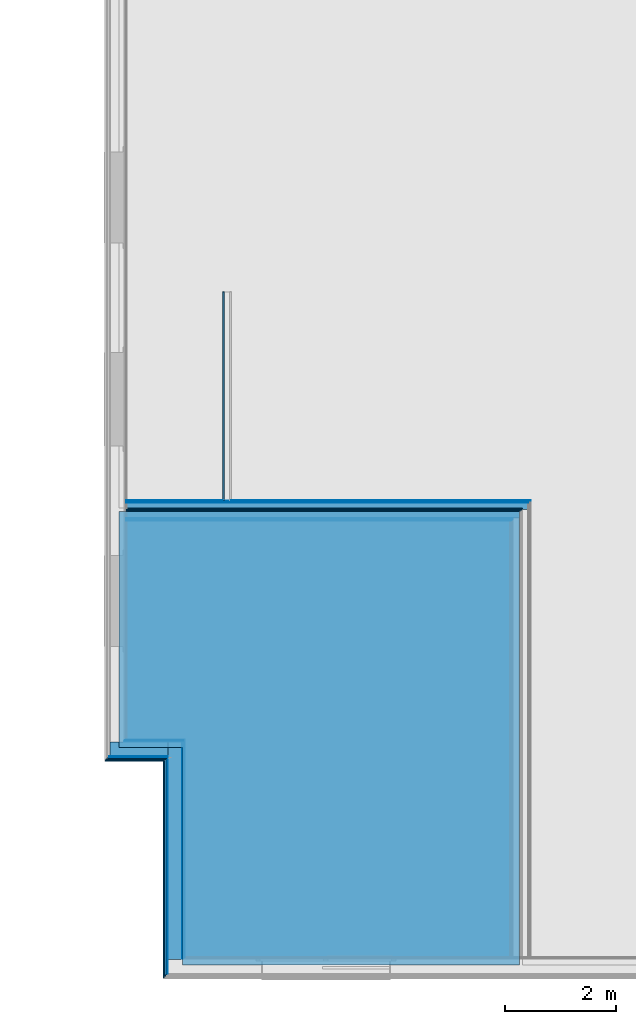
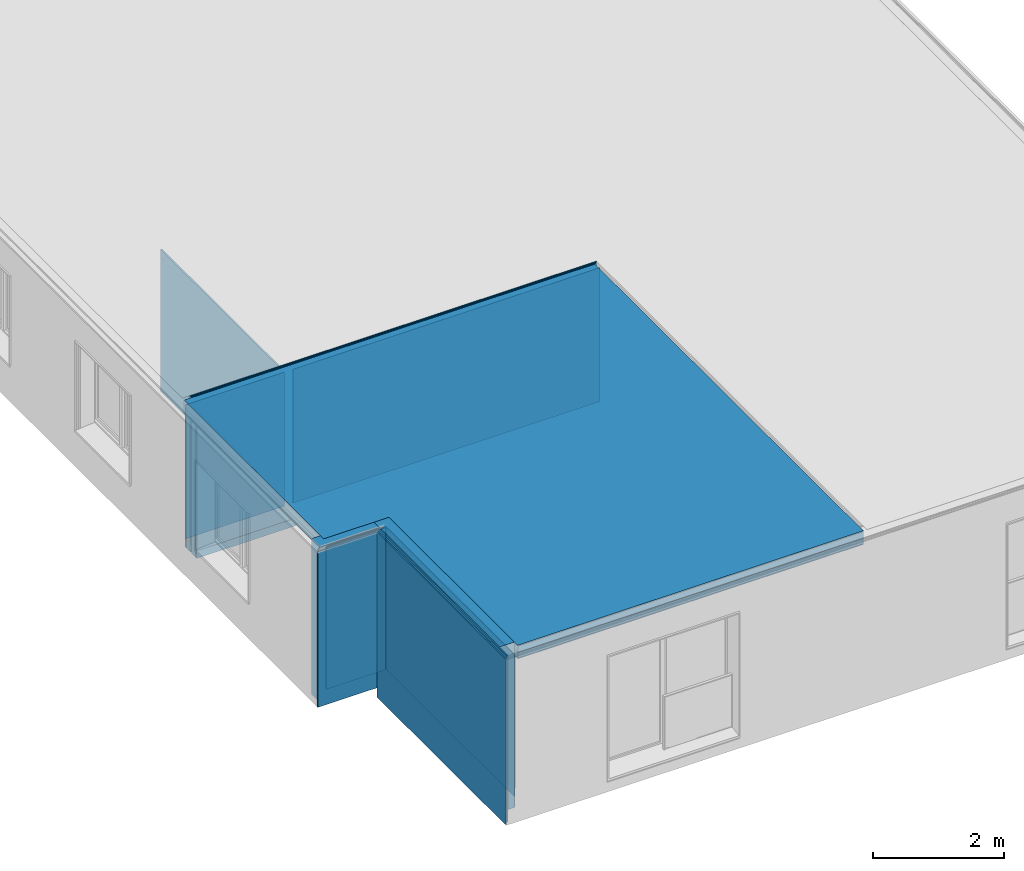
# One storey, part 4 of 34: 31 building element parts, 8 elements without a shape of their own.
"""IFC4 building model written with IfcOpenShell, lengths in millimetres."""

from ifc_helpers import new_model, entity, si_unit, converted_unit, derived_unit, direction, frame, origin_with_axes, place, context, subcontext, project, spatial, polygons, material, type_object, element, aggregate, save


model = new_model("IFC4")

# Units and contexts
model_context = context("Model", 3, precision=0.01, world=origin_with_axes(), true_north=direction((0.0, 1.0)))
body_context = subcontext(model_context, "Body", "Model", "MODEL_VIEW")
ifc_project = project(units=[si_unit("LENGTHUNIT", "METRE", prefix="MILLI"), si_unit("AREAUNIT", "SQUARE_METRE"), si_unit("VOLUMEUNIT", "CUBIC_METRE"), converted_unit("PLANEANGLEUNIT", "DEGREE", entity("IfcPlaneAngleMeasure", 0.0174532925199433), si_unit("PLANEANGLEUNIT", "RADIAN"), dimensions=[0, 0, 0, 0, 0, 0, 0]), converted_unit("TIMEUNIT", "Year", entity("IfcTimeMeasure", 31557600.0), si_unit("TIMEUNIT", "SECOND"), dimensions=[0, 0, 1, 0, 0, 0, 0]), si_unit("MASSUNIT", "GRAM", prefix="KILO"), si_unit("THERMODYNAMICTEMPERATUREUNIT", "DEGREE_CELSIUS"), si_unit("LUMINOUSINTENSITYUNIT", "LUMEN"), si_unit("ENERGYUNIT", "JOULE", prefix="MEGA"), derived_unit("THERMALCONDUCTANCEUNIT", [(si_unit("POWERUNIT", "WATT"), 1), (si_unit("LENGTHUNIT", "METRE"), -1), (si_unit("THERMODYNAMICTEMPERATUREUNIT", "KELVIN"), -1)]), derived_unit("SPECIFICHEATCAPACITYUNIT", [(si_unit("ENERGYUNIT", "JOULE"), 1), (si_unit("MASSUNIT", "GRAM", prefix="KILO"), -1), (si_unit("THERMODYNAMICTEMPERATUREUNIT", "KELVIN"), -1)]), derived_unit("MASSDENSITYUNIT", [(si_unit("MASSUNIT", "GRAM", prefix="KILO"), 1), (si_unit("VOLUMEUNIT", "CUBIC_METRE"), -1)])], contexts=[model_context])

# Site, building, storey
site_placement = place(None, origin_with_axes())
site = spatial("IfcSite", under=ifc_project, at=site_placement, Name="Gelände", CompositionType="ELEMENT")
building_placement = place(site_placement, origin_with_axes())
building = spatial("IfcBuilding", under=site, at=building_placement, Name="Gebäude", CompositionType="ELEMENT")
storey_placement = place(building_placement, frame((0.0, 0.0, 2900.0), z_axis=(0.0, 0.0, 1.0), x_axis=(1.0, 0.0, 0.0)))
storey = spatial("IfcBuildingStorey", under=building, at=storey_placement, Name="1.OG", CompositionType="ELEMENT", Elevation=2900.0)

# Curtain wall, building element parts
curtain_wall_type = type_object("IfcCurtainWallType", Name="Fassade Typ 02 - Vertikale Schalung 71", PredefinedType="NOTDEFINED")
curtain_wall_1_placement = place(storey_placement, frame((18974.99747005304, 8447.597281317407, 500.0000000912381), z_axis=(0.0, 0.0, 1.0), x_axis=(-1.0, 0.0, 0.0)))
curtain_wall_1 = element("IfcCurtainWall", 1, at=curtain_wall_1_placement, inside=storey, type_object=curtain_wall_type, Name="Wand-014", PredefinedType="NOTDEFINED")
ifc_material_1 = material(Name="Falzschalung vertikal")
building_element_part_1_placement = place(curtain_wall_1_placement, origin_with_axes())
building_element_part_1 = element("IfcBuildingElementPart", 2, at=building_element_part_1_placement, material=ifc_material_1, Name="Falzschalung vertikal", PredefinedType="NOTDEFINED", context=body_context, shape_type="Tessellation", body=[
    polygons([(1046.00002528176, 0.0, 2899.99999990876), (-21.0000000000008, 0.0, 2899.99999990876), (-21.0000000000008, -20.99999999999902, 2899.99999990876), (1046.00002528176, -20.99999999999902, 2899.99999990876), (1046.00002528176, 0.0, 0.0), (-21.0000000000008, 0.0, 0.0), (-21.0000000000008, -21.0000000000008, 0.0), (1046.00002528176, -21.0000000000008, 0.0)], [[[1, 2, 3, 4]], [[5, 6, 2, 1]], [[3, 2, 6, 7]], [[4, 3, 7, 8]], [[4, 8, 5, 1]], [[8, 7, 6, 5]]], closed=True),
])
ifc_material_2 = material(Name="Lattenrost horizontal")
building_element_part_2_placement = place(curtain_wall_1_placement, origin_with_axes())
building_element_part_2 = element("IfcBuildingElementPart", 3, at=building_element_part_2_placement, material=ifc_material_2, Name="Lattenrost horizontal", PredefinedType="NOTDEFINED", context=body_context, shape_type="Tessellation", body=[
    polygons([(1025.000025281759, -20.99999999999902, 2899.99999990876), (-45.99999999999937, -20.99999999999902, 2899.99999990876), (-45.99999999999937, -45.99999999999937, 2899.99999990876), (1025.000025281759, -45.99999999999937, 2899.99999990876), (1025.000025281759, -21.0000000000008, 0.0), (-45.99999999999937, -21.0000000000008, 0.0), (-45.99999999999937, -45.99999999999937, 0.0), (1025.000025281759, -45.99999999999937, 0.0)], [[[1, 2, 3, 4]], [[5, 6, 2, 1]], [[3, 2, 6, 7]], [[4, 3, 7, 8]], [[4, 8, 5, 1]], [[8, 7, 6, 5]]], closed=True),
])

# Wall, building element part
wall_type_1 = type_object("IfcWallType", Name="Innenwand Typ 01 154", PredefinedType="NOTDEFINED")
wall_1_placement = place(storey_placement, frame((20053.50474128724, 13160.59728131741, 500.0), z_axis=(0.0, 0.0, 1.0), x_axis=(0.0, 1.0, 0.0)))
wall_1 = element("IfcWall", 4, at=wall_1_placement, inside=storey, type_object=wall_type_1, Name="Wand-014", PredefinedType="NOTDEFINED")
ifc_material_3 = material(Name="Dreischichtplatte DSP")
building_element_part_3_placement = place(wall_1_placement, origin_with_axes())
building_element_part_3 = element("IfcBuildingElementPart", 5, at=building_element_part_3_placement, material=ifc_material_3, Name="Dreischichtplatte DSP", PredefinedType="NOTDEFINED", context=body_context, shape_type="Tessellation", body=[
    polygons([(3761.05371447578, -27.00000000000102, 2643.999999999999), (3761.05371447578, 0.0, 2643.999999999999), (-9.999999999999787, 0.0, 2643.999999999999), (-9.999999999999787, -27.00000000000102, 2643.999999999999), (3761.05371447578, -27.00000000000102, 0.0), (3761.05371447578, 0.0, 0.0), (-9.999999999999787, 0.0, 0.0), (-9.999999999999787, -27.00000000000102, 0.0)], [[[1, 2, 3, 4]], [[1, 5, 6, 2]], [[2, 6, 7, 3]], [[4, 3, 7, 8]], [[5, 1, 4, 8]], [[6, 5, 8, 7]]], closed=True),
])
aggregate(wall_1, [building_element_part_3])

# Building element part
ifc_material_4 = material(Name="Lattenrost vertikal")
building_element_part_4_placement = place(curtain_wall_1_placement, origin_with_axes())
building_element_part_4 = element("IfcBuildingElementPart", 6, at=building_element_part_4_placement, material=ifc_material_4, Name="Lattenrost vertikal", PredefinedType="NOTDEFINED", context=body_context, shape_type="Tessellation", body=[
    polygons([(1000.000025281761, -45.99999999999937, 2899.99999990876), (-71.0000000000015, -45.99999999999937, 2899.99999990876), (-71.0000000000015, -70.99999999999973, 2899.99999990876), (1000.000025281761, -70.99999999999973, 2899.99999990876), (1000.000025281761, -45.99999999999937, 0.0), (-71.0000000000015, -45.99999999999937, 0.0), (-71.0000000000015, -70.99999999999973, 0.0), (1000.000025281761, -70.99999999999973, 0.0)], [[[1, 2, 3, 4]], [[5, 6, 2, 1]], [[3, 2, 6, 7]], [[4, 3, 7, 8]], [[4, 8, 5, 1]], [[8, 7, 6, 5]]], closed=True),
])

aggregate(curtain_wall_1, [building_element_part_1, building_element_part_2, building_element_part_4])

# Wall, building element parts
wall_type_2 = type_object("IfcWallType", Name="Trennwand Typ 01 186", PredefinedType="NOTDEFINED")
wall_2_placement = place(storey_placement, frame((18307.99744477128, 12788.59728131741, 500.0), z_axis=(0.0, 0.0, 1.0), x_axis=(1.0, 0.0, 0.0)))
wall_2 = element("IfcWall", 7, at=wall_2_placement, inside=storey, type_object=wall_type_2, Name="Wand-014", PredefinedType="NOTDEFINED")
ifc_material_5 = material(Name="Dämmung Innen")
building_element_part_5_placement = place(wall_2_placement, origin_with_axes())
building_element_part_5 = element("IfcBuildingElementPart", 8, at=building_element_part_5_placement, material=ifc_material_5, Name="Dämmung Innen", PredefinedType="NOTDEFINED", context=body_context, shape_type="Tessellation", body=[
    polygons([(7120.999999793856, 166.0000000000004, 149.9999999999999), (7120.999999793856, 185.9999999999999, 149.9999999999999), (7120.999999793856, 185.9999999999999, 2899.999999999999), (7120.999999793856, 166.0000000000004, 2899.999999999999), (0.0, 185.9999999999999, 149.9999999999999), (0.0, 166.0000000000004, 149.9999999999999), (0.0, 185.9999999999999, 2899.999999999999), (0.0, 166.0000000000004, 2899.999999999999)], [[[1, 2, 3, 4]], [[5, 2, 1, 6]], [[2, 5, 7, 3]], [[4, 3, 7, 8]], [[6, 1, 4, 8]], [[5, 6, 8, 7]]], closed=True),
])
ifc_material_6 = material(Name="Ständer Konstruktion gedämmt")
building_element_part_6_placement = place(wall_2_placement, origin_with_axes())
building_element_part_6 = element("IfcBuildingElementPart", 9, at=building_element_part_6_placement, material=ifc_material_6, Name="Ständer Konstruktion gedämmt", PredefinedType="NOTDEFINED", context=body_context, shape_type="Tessellation", body=[
    polygons([(0.0, 166.0000000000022, 2643.999948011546), (7100.999999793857, 166.0000000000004, 2643.999948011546), (7100.999999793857, 166.0000000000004, 0.0), (0.0, 166.0000000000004, 0.0), (7100.999999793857, 46.00000000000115, 2643.999948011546), (0.0, 45.99999999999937, 2643.999948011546), (7100.999999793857, 46.00000000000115, 0.0), (0.0, 45.99999999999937, 0.0)], [[[1, 2, 3, 4]], [[5, 2, 1, 6]], [[2, 5, 7, 3]], [[3, 7, 8, 4]], [[6, 1, 4, 8]], [[5, 6, 8, 7]]], closed=True),
])
ifc_material_7 = material(Name="Gipsfaserplatte GFP")
building_element_part_7_placement = place(wall_2_placement, origin_with_axes())
building_element_part_7 = element("IfcBuildingElementPart", 10, at=building_element_part_7_placement, material=ifc_material_7, Name="Gipsfaserplatte GFP", PredefinedType="NOTDEFINED", context=body_context, shape_type="Tessellation", body=[
    polygons([(0.0, 45.99999999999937, 2643.999948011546), (6980.999999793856, 46.00000000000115, 2643.999948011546), (6980.999999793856, 46.00000000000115, 0.0), (0.0, 45.99999999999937, 0.0), (6980.999999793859, 28.00000000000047, 2643.999948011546), (0.0, 28.00000000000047, 2643.999948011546), (6980.999999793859, 28.00000000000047, 0.0), (0.0, 28.00000000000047, 0.0)], [[[1, 2, 3, 4]], [[5, 2, 1, 6]], [[2, 5, 7, 3]], [[3, 7, 8, 4]], [[6, 1, 4, 8]], [[5, 6, 8, 7]]], closed=True),
])
ifc_material_8 = material(Name="Gipskartonplatte GKP")
building_element_part_8_placement = place(wall_2_placement, origin_with_axes())
building_element_part_8 = element("IfcBuildingElementPart", 11, at=building_element_part_8_placement, material=ifc_material_8, Name="Gipskartonplatte GKP", PredefinedType="NOTDEFINED", context=body_context, shape_type="Tessellation", body=[
    polygons([(0.0, 28.00000000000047, 2643.999948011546), (6962.999999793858, 28.00000000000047, 2643.999948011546), (6962.999999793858, 28.00000000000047, 0.0), (0.0, 28.00000000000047, 0.0), (6962.999999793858, 9.999999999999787, 2643.999948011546), (0.0, 9.999999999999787, 2643.999948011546), (6962.999999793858, 9.999999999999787, 0.0), (0.0, 9.999999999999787, 0.0)], [[[1, 2, 3, 4]], [[5, 2, 1, 6]], [[2, 5, 7, 3]], [[3, 7, 8, 4]], [[6, 1, 4, 8]], [[5, 6, 8, 7]]], closed=True),
])
ifc_material_9 = material(Name="Kalkzementputz Aussen")
building_element_part_9_placement = place(wall_2_placement, origin_with_axes())
building_element_part_9 = element("IfcBuildingElementPart", 12, at=building_element_part_9_placement, material=ifc_material_9, Name="Kalkzementputz Aussen", PredefinedType="NOTDEFINED", context=body_context, shape_type="Tessellation", body=[
    polygons([(0.0, 9.999999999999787, 2643.999948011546), (6944.999999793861, 9.999999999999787, 2643.999948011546), (6944.999999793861, 9.999999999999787, 149.9999999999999), (0.0, 9.999999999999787, 149.9999999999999), (6944.999999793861, 0.0, 2643.999948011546), (0.0, 0.0, 2643.999948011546), (6944.999999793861, 0.0, 149.9999999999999), (0.0, 0.0, 149.9999999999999)], [[[1, 2, 3, 4]], [[5, 2, 1, 6]], [[2, 5, 7, 3]], [[4, 3, 7, 8]], [[6, 1, 4, 8]], [[5, 6, 8, 7]]], closed=True),
])
aggregate(wall_2, [building_element_part_5, building_element_part_6, building_element_part_7, building_element_part_8, building_element_part_9])

# Curtain wall, building element parts
curtain_wall_2_placement = place(storey_placement, frame((18974.99747005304, 8447.597281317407, 319.999999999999), z_axis=(0.0, 0.0, 1.0), x_axis=(0.0, -1.0, 0.0)))
curtain_wall_2 = element("IfcCurtainWall", 13, at=curtain_wall_2_placement, inside=storey, type_object=curtain_wall_type, Name="Wand-014", PredefinedType="NOTDEFINED")
building_element_part_10_placement = place(curtain_wall_2_placement, origin_with_axes())
building_element_part_10 = element("IfcBuildingElementPart", 14, at=building_element_part_10_placement, material=ifc_material_4, Name="Lattenrost vertikal", PredefinedType="NOTDEFINED", context=body_context, shape_type="Tessellation", body=[
    polygons([(3858.000000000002, 70.99999999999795, 0.0), (-45.99999999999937, 70.99999910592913, 0.0), (-45.99999999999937, 71.0000000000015, 3079.999999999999), (3858.000000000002, 70.99999999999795, 3079.999948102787), (3858.000000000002, 45.99999999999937, 0.0), (-45.99999999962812, 45.99999999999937, 0.0), (-45.99999999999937, 45.99999999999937, 3079.999999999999), (3858.000000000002, 45.99999999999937, 3079.999948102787)], [[[1, 2, 3, 4]], [[1, 5, 6, 2]], [[2, 6, 7, 3]], [[8, 4, 3, 7]], [[4, 8, 5, 1]], [[5, 8, 7, 6]]], closed=True),
])
building_element_part_11_placement = place(curtain_wall_2_placement, origin_with_axes())
building_element_part_11 = element("IfcBuildingElementPart", 15, at=building_element_part_11_placement, material=ifc_material_2, Name="Lattenrost horizontal", PredefinedType="NOTDEFINED", context=body_context, shape_type="Tessellation", body=[
    polygons([(3883.000000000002, 45.99999999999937, 0.0), (-20.99999999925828, 45.99999999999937, 0.0), (-20.99999999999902, 45.99999999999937, 3079.999999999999), (3883.000000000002, 45.99999999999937, 3079.999948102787), (3883.000000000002, 21.0000000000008, 0.0), (-20.99999999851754, 21.0000000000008, 0.0), (-20.99999999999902, 21.0000000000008, 3079.999999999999), (3883.000000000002, 21.0000000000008, 3079.999948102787)], [[[1, 2, 3, 4]], [[1, 5, 6, 2]], [[2, 6, 7, 3]], [[8, 4, 3, 7]], [[4, 8, 5, 1]], [[5, 8, 7, 6]]], closed=True),
])
building_element_part_12_placement = place(curtain_wall_2_placement, origin_with_axes())
building_element_part_12 = element("IfcBuildingElementPart", 16, at=building_element_part_12_placement, material=ifc_material_1, Name="Falzschalung vertikal", PredefinedType="NOTDEFINED", context=body_context, shape_type="Tessellation", body=[
    polygons([(6.404703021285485, 0.0, 3079.999999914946), (6.404703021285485, 0.9456062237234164, 3079.999999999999), (6.844014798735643, 0.0, 3079.999999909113), (3908.000000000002, 0.0, 3079.999948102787), (3908.000000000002, 21.0000000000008, 3079.999948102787), (0.0, 21.0000000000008, 3079.999999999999), (0.0, 0.0, 3079.999999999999), (6.404703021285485, 0.9456062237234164, 3052.044753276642), (6.404703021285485, 0.0, 3052.044753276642), (6.844014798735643, 0.0, 3052.044753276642), (1.957545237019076e-09, 0.0, 0.0), (3908.000000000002, 0.0, 0.0), (3908.000000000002, 21.0000000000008, 0.0), (1.378452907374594e-09, 21.0000000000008, 0.0)], [[[1, 2, 3, 4, 5, 6, 7]], [[8, 2, 1, 9]], [[10, 3, 2, 8]], [[10, 9, 1, 7, 11, 12, 4, 3]], [[5, 4, 12, 13]], [[13, 14, 6, 5]], [[14, 11, 7, 6]], [[8, 9, 10]], [[13, 12, 11, 14]]], closed=True),
])
aggregate(curtain_wall_2, [building_element_part_10, building_element_part_11, building_element_part_12])

# Wall, building element parts
wall_3_placement = place(storey_placement, frame((18307.99744477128, 13160.59728131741, 500.0), z_axis=(0.0, 0.0, 1.0), x_axis=(1.0, 0.0, 0.0)))
wall_3 = element("IfcWall", 17, at=wall_3_placement, inside=storey, type_object=wall_type_2, Name="Wand-014", PredefinedType="NOTDEFINED")
building_element_part_13_placement = place(wall_3_placement, origin_with_axes())
building_element_part_13 = element("IfcBuildingElementPart", 18, at=building_element_part_13_placement, material=ifc_material_9, Name="Kalkzementputz Aussen", PredefinedType="NOTDEFINED", context=body_context, shape_type="Tessellation", body=[
    polygons([(1745.507296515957, -9.999999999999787, 149.9999999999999), (1745.507296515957, 0.0, 149.9999999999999), (1745.507296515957, 0.0, 2643.999948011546), (1745.507296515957, -9.999999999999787, 2643.999948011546), (0.0, 0.0, 149.9999999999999), (0.0, -9.99999999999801, 149.9999999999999), (0.0, 0.0, 2643.999948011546), (0.0, -9.999999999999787, 2643.999948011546)], [[[1, 2, 3, 4]], [[5, 2, 1, 6]], [[2, 5, 7, 3]], [[4, 3, 7, 8]], [[6, 1, 4, 8]], [[5, 6, 8, 7]]], closed=True),
    polygons([(7306.999999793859, -9.999999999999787, 149.9999999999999), (7306.999999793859, 0.0, 149.9999999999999), (7306.999999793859, 0.0, 2643.999948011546), (7306.999999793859, -9.999999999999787, 2643.999948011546), (1899.507296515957, 0.0, 149.9999999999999), (1899.507296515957, -9.999999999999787, 149.9999999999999), (1899.507296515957, 0.0, 2643.999948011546), (1899.507296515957, -9.999999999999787, 2643.999948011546)], [[[1, 2, 3, 4]], [[5, 2, 1, 6]], [[2, 5, 7, 3]], [[4, 3, 7, 8]], [[6, 1, 4, 8]], [[5, 6, 8, 7]]], closed=True),
])
building_element_part_14_placement = place(wall_3_placement, origin_with_axes())
building_element_part_14 = element("IfcBuildingElementPart", 19, at=building_element_part_14_placement, material=ifc_material_8, Name="Gipskartonplatte GKP", PredefinedType="NOTDEFINED", context=body_context, shape_type="Tessellation", body=[
    polygons([(0.0, -9.999999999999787, 2643.999948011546), (7296.999999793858, -9.999999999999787, 2643.999948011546), (7296.999999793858, -9.999999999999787, 0.0), (0.0, -9.999999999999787, 0.0), (7296.999999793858, -27.99999999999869, 2643.999948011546), (0.0, -28.00000000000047, 2643.999948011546), (7296.999999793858, -27.99999999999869, 0.0), (0.0, -28.00000000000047, 0.0)], [[[1, 2, 3, 4]], [[5, 2, 1, 6]], [[2, 5, 7, 3]], [[3, 7, 8, 4]], [[6, 1, 4, 8]], [[5, 6, 8, 7]]], closed=True),
])
building_element_part_15_placement = place(wall_3_placement, origin_with_axes())
building_element_part_15 = element("IfcBuildingElementPart", 20, at=building_element_part_15_placement, material=ifc_material_7, Name="Gipsfaserplatte GFP", PredefinedType="NOTDEFINED", context=body_context, shape_type="Tessellation", body=[
    polygons([(0.0, -28.00000000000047, 2643.999948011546), (7278.999999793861, -27.99999999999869, 2643.999948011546), (7278.999999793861, -27.99999999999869, 0.0), (0.0, -28.00000000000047, 0.0), (7278.999999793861, -45.99999999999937, 2643.999948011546), (0.0, -45.99999999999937, 2643.999948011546), (7278.999999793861, -45.99999999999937, 0.0), (0.0, -45.99999999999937, 0.0)], [[[1, 2, 3, 4]], [[5, 2, 1, 6]], [[2, 5, 7, 3]], [[3, 7, 8, 4]], [[6, 1, 4, 8]], [[5, 6, 8, 7]]], closed=True),
])
building_element_part_16_placement = place(wall_3_placement, origin_with_axes())
building_element_part_16 = element("IfcBuildingElementPart", 21, at=building_element_part_16_placement, material=ifc_material_6, Name="Ständer Konstruktion gedämmt", PredefinedType="NOTDEFINED", context=body_context, shape_type="Tessellation", body=[
    polygons([(0.0, -45.99999999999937, 2643.999948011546), (7260.99999979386, -45.99999999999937, 2643.999948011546), (7260.99999979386, -45.99999999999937, 0.0), (0.0, -45.99999999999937, 0.0), (7260.99999979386, -165.9999999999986, 2643.999948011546), (0.0, -146.0000000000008, 2643.999948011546), (7160.999999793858, -146.0000000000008, 2643.999948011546), (7160.999999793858, -165.9999999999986, 2643.999948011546), (7260.99999979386, -166.0000000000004, 0.0), (0.0, -166.0000000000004, 0.0), (0.0, -166.0000000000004, 2899.999999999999), (0.0, -146.0000000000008, 2899.999948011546), (7160.999999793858, -146.0000000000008, 2899.999948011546), (7160.999999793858, -165.9999999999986, 2899.999948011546)], [[[1, 2, 3, 4]], [[5, 2, 1, 6, 7, 8]], [[2, 5, 9, 3]], [[3, 9, 10, 4]], [[6, 1, 4, 10, 11, 12]], [[7, 6, 12, 13]], [[8, 7, 13, 14]], [[8, 14, 11, 10, 9, 5]], [[13, 12, 11, 14]]], closed=True),
])
building_element_part_17_placement = place(wall_3_placement, origin_with_axes())
building_element_part_17 = element("IfcBuildingElementPart", 22, at=building_element_part_17_placement, material=ifc_material_5, Name="Dämmung Innen", PredefinedType="NOTDEFINED", context=body_context, shape_type="Tessellation", body=[
    polygons([(7140.999999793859, -185.9999999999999, 149.9999999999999), (7140.999999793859, -166.0000000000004, 149.9999999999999), (7140.999999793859, -165.9999999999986, 2899.999999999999), (7140.999999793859, -185.9999999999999, 2899.999999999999), (0.0, -166.0000000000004, 149.9999999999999), (0.0, -185.9999999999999, 149.9999999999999), (0.0, -166.0000000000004, 2899.999999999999), (0.0, -185.9999999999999, 2899.999999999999)], [[[1, 2, 3, 4]], [[5, 2, 1, 6]], [[2, 5, 7, 3]], [[4, 3, 7, 8]], [[6, 1, 4, 8]], [[5, 6, 8, 7]]], closed=True),
])
aggregate(wall_3, [building_element_part_13, building_element_part_14, building_element_part_15, building_element_part_16, building_element_part_17])

# Slab, building element parts
slab_type = type_object("IfcSlabType", Name="Geschossdecke Typ 01 256", PredefinedType="NOTDEFINED")
slab_placement = place(storey_placement, frame((18177.99744477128, 8696.597281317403, 3399.999948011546), z_axis=(0.0, 0.0, 1.0), x_axis=(1.0, 0.0, 0.0)))
slab = element("IfcSlab", 23, at=slab_placement, inside=storey, type_object=slab_type, Name="Deckennr.-073", PredefinedType="NOTDEFINED")
ifc_material_10 = material(Name="Balken Konstruktion ungedämmt")
building_element_part_18_placement = place(slab_placement, origin_with_axes())
building_element_part_18 = element("IfcBuildingElementPart", 24, at=building_element_part_18_placement, material=ifc_material_10, Name="Balken Konstruktion ungedämmt", PredefinedType="NOTDEFINED", context=body_context, shape_type="Tessellation", body=[
    polygons([(1146.000025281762, 0.0, -137.9999999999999), (1146.000025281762, 0.0, -17.99999999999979), (0.0, 0.0, -17.99999999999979), (0.0, 0.0, -137.9999999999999), (1146.000025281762, -3929.000000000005, -137.9999999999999), (1146.000025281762, -3929.000000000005, -17.99999999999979), (7230.999999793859, -3929.000000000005, -17.99999999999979), (7230.999999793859, 4258.000000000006, -17.99999999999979), (0.0, 4258.000000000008, -17.99999999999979), (0.0, 4258.000000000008, -137.9999999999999), (7230.999999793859, 4258.000000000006, -137.9999999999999), (7230.999999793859, -3929.000000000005, -137.9999999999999)], [[[1, 2, 3, 4]], [[5, 6, 2, 1]], [[3, 2, 6, 7, 8, 9]], [[4, 3, 9, 10]], [[4, 10, 11, 12, 5, 1]], [[12, 7, 6, 5]], [[11, 8, 7, 12]], [[10, 9, 8, 11]]], closed=True),
])
ifc_material_11 = material(Name="Grobspanplatte-OSB")
building_element_part_19_placement = place(slab_placement, origin_with_axes())
building_element_part_19 = element("IfcBuildingElementPart", 25, at=building_element_part_19_placement, material=ifc_material_11, Name="Grobspanplatte-OSB", PredefinedType="NOTDEFINED", context=body_context, shape_type="Tessellation", body=[
    polygons([(1146.000025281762, 0.0, -17.99999999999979), (1146.000025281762, 0.0, 0.0), (0.0, 0.0, 0.0), (0.0, 0.0, -17.99999999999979), (1146.000025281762, -3929.000000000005, -17.99999999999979), (1146.000025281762, -3929.000000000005, 0.0), (7230.999999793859, -3929.000000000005, 0.0), (7230.999999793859, 4258.000000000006, 0.0), (0.0, 4258.000000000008, 0.0), (0.0, 4258.000000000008, -17.99999999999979), (7230.999999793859, 4258.000000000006, -17.99999999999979), (7230.999999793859, -3929.000000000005, -17.99999999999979)], [[[1, 2, 3, 4]], [[5, 6, 2, 1]], [[3, 2, 6, 7, 8, 9]], [[4, 3, 9, 10]], [[4, 10, 11, 12, 5, 1]], [[12, 7, 6, 5]], [[11, 8, 7, 12]], [[10, 9, 8, 11]]], closed=True),
])
ifc_material_12 = material(Name="Balken Konstruktion gedämmt")
building_element_part_20_placement = place(slab_placement, origin_with_axes())
building_element_part_20 = element("IfcBuildingElementPart", 26, at=building_element_part_20_placement, material=ifc_material_12, Name="Balken Konstruktion gedämmt", PredefinedType="NOTDEFINED", context=body_context, shape_type="Tessellation", body=[
    polygons([(1146.000025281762, 0.0, -237.9999999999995), (1146.000025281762, 0.0, -137.9999999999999), (0.0, 0.0, -137.9999999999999), (0.0, 0.0, -237.9999999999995), (1146.000025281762, -3929.000000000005, -237.9999999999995), (1146.000025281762, -3929.000000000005, -137.9999999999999), (7230.999999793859, -3929.000000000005, -137.9999999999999), (7230.999999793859, 4258.000000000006, -137.9999999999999), (0.0, 4258.000000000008, -137.9999999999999), (0.0, 4258.000000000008, -237.9999999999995), (7230.999999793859, 4258.000000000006, -237.9999999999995), (7230.999999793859, -3929.000000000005, -237.9999999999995)], [[[1, 2, 3, 4]], [[5, 6, 2, 1]], [[3, 2, 6, 7, 8, 9]], [[4, 3, 9, 10]], [[4, 10, 11, 12, 5, 1]], [[12, 7, 6, 5]], [[11, 8, 7, 12]], [[10, 9, 8, 11]]], closed=True),
])
building_element_part_21_placement = place(slab_placement, origin_with_axes())
building_element_part_21 = element("IfcBuildingElementPart", 27, at=building_element_part_21_placement, material=ifc_material_11, Name="Grobspanplatte-OSB", PredefinedType="NOTDEFINED", context=body_context, shape_type="Tessellation", body=[
    polygons([(0.0, 0.0, -256.0000000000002), (1146.000025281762, 0.0, -256.0000000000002), (1146.000025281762, 0.0, -237.9999999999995), (0.0, 0.0, -237.9999999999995), (0.0, 4258.000000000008, -256.0000000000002), (7230.999999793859, 4258.000000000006, -256.0000000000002), (7230.999999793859, -3929.000000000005, -256.0000000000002), (1146.000025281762, -3929.000000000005, -256.0000000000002), (1146.000025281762, -3929.000000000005, -237.9999999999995), (7230.999999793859, -3929.000000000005, -237.9999999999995), (7230.999999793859, 4258.000000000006, -237.9999999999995), (0.0, 4258.000000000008, -237.9999999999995)], [[[1, 2, 3, 4]], [[1, 5, 6, 7, 8, 2]], [[2, 8, 9, 3]], [[4, 3, 9, 10, 11, 12]], [[5, 1, 4, 12]], [[6, 5, 12, 11]], [[7, 6, 11, 10]], [[8, 7, 10, 9]]], closed=True),
])
aggregate(slab, [building_element_part_18, building_element_part_19, building_element_part_20, building_element_part_21])

# Wall, building element parts
wall_type_3 = type_object("IfcWallType", Name="Aussenwand Typ 01 318", PredefinedType="NOTDEFINED")
wall_4_placement = place(storey_placement, frame((19045.99747005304, 4589.597281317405, 319.999999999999), z_axis=(0.0, 0.0, 1.0), x_axis=(0.0, 1.0, 0.0)))
wall_4 = element("IfcWall", 28, at=wall_4_placement, inside=storey, type_object=wall_type_3, Name="Wand-014", PredefinedType="NOTDEFINED")
building_element_part_22_placement = place(wall_4_placement, origin_with_axes())
building_element_part_22 = element("IfcBuildingElementPart", 29, at=building_element_part_22_placement, material=ifc_material_11, Name="Grobspanplatte-OSB", PredefinedType="NOTDEFINED", context=body_context, shape_type="Tessellation", body=[
    polygons([(3929.0, -18.00000000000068, 0.0), (3929.0, -18.00000000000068, 180.0000000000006), (3947.000000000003, -18.00000000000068, 180.0000000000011), (3947.000000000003, -18.00000000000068, 3080.0), (17.99999999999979, -18.00000000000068, 3080.0), (17.99999999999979, -18.00000000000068, 0.0), (3929.0, 0.0, 0.0), (3929.0, 0.0, 180.0000000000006), (3947.000000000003, 0.0, 180.0000000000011), (3947.000000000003, 0.0, 3080.0), (17.99999999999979, 0.0, 3080.0), (17.99999999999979, 0.0, 0.0)], [[[1, 2, 3, 4, 5, 6]], [[7, 8, 2, 1]], [[2, 8, 9, 3]], [[3, 9, 10, 4]], [[11, 5, 4, 10]], [[5, 11, 12, 6]], [[6, 12, 7, 1]], [[12, 11, 10, 9, 8, 7]]], closed=True),
])
building_element_part_23_placement = place(wall_4_placement, origin_with_axes())
building_element_part_23 = element("IfcBuildingElementPart", 30, at=building_element_part_23_placement, material=ifc_material_6, Name="Ständer Konstruktion gedämmt", PredefinedType="NOTDEFINED", context=body_context, shape_type="Tessellation", body=[
    polygons([(4207.000000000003, -18.00000000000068, 180.0000000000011), (4207.000000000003, -18.00000000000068, 2823.999948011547), (4207.000000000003, -277.9999999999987, 2823.999948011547), (4207.000000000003, -277.9999999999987, 180.0000000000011), (4106.999999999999, -18.00000000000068, 3079.999948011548), (4106.999999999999, -18.00000000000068, 2823.999948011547), (3929.0, -18.00000000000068, 180.0000000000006), (3929.0, -18.00000000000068, 0.0), (278.0000000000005, -18.00000000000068, 0.0), (278.0000000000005, -18.00000000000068, 3080.0), (4106.999999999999, -277.9999999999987, 2823.999948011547), (4106.999999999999, -277.9999999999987, 3079.999948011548), (278.0000000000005, -277.9999999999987, 3080.0), (278.0000000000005, -277.9999999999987, 0.0), (3929.0, -277.9999999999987, 0.0), (3929.0, -277.9999999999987, 180.0000000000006)], [[[1, 2, 3, 4]], [[5, 6, 2, 1, 7, 8, 9, 10]], [[6, 11, 3, 2]], [[3, 11, 12, 13, 14, 15, 16, 4]], [[16, 7, 1, 4]], [[12, 11, 6, 5]], [[8, 7, 16, 15]], [[14, 9, 8, 15]], [[13, 10, 9, 14]], [[13, 12, 5, 10]]], closed=True),
])
building_element_part_24_placement = place(wall_4_placement, origin_with_axes())
building_element_part_24 = element("IfcBuildingElementPart", 31, at=building_element_part_24_placement, material=ifc_material_7, Name="Gipsfaserplatte GFP", PredefinedType="NOTDEFINED", context=body_context, shape_type="Tessellation", body=[
    polygons([(4222.000000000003, -277.9999999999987, 2823.999948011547), (4222.000000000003, -292.9999999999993, 2823.999948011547), (4222.000000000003, -292.9999999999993, 180.0000000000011), (4222.000000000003, -277.9999999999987, 180.0000000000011), (293.0000000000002, -292.9999999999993, 2823.999948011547), (4106.999999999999, -277.9999999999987, 2823.999948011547), (293.0000000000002, -277.9999999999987, 2823.999948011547), (293.0000000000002, -292.9999999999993, 0.0), (3929.0, -293.0000000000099, 0.0), (3929.0, -292.9999999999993, 180.0000000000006), (3929.0, -277.9999999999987, 180.0000000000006), (3929.0, -277.9999999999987, 0.0), (293.0000000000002, -277.9999999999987, 0.0)], [[[1, 2, 3, 4]], [[5, 2, 1, 6, 7]], [[2, 5, 8, 9, 10, 3]], [[11, 4, 3, 10]], [[6, 1, 4, 11, 12, 13, 7]], [[5, 7, 13, 8]], [[13, 12, 9, 8]], [[11, 10, 9, 12]]], closed=True),
])
ifc_material_13 = material(Name="Verputz Innen")
building_element_part_25_placement = place(wall_4_placement, origin_with_axes())
building_element_part_25 = element("IfcBuildingElementPart", 32, at=building_element_part_25_placement, material=ifc_material_13, Name="Verputz Innen", PredefinedType="NOTDEFINED", context=body_context, shape_type="Tessellation", body=[
    polygons([(4246.999998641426, -307.9999999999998, 2823.999948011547), (4246.999998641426, -318.0000000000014, 2823.999948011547), (4246.999999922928, -318.0000000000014, 330.000000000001), (4246.999999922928, -307.9999999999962, 330.000000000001), (317.9999999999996, -318.0000000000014, 2823.999948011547), (317.9999999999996, -307.9999999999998, 2823.999948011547), (317.9999999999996, -318.0000000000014, 330.000000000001), (317.9999999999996, -307.9999999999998, 330.000000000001), (4237.000000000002, -307.9999999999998, 330.000000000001)], [[[1, 2, 3, 4]], [[5, 2, 1, 6]], [[2, 5, 7, 3]], [[4, 3, 7, 8, 9]], [[6, 1, 4, 9, 8]], [[5, 6, 8, 7]]], closed=True),
])
building_element_part_26_placement = place(wall_4_placement, origin_with_axes())
building_element_part_26 = element("IfcBuildingElementPart", 33, at=building_element_part_26_placement, material=ifc_material_7, Name="Gipsfaserplatte GFP", PredefinedType="NOTDEFINED", context=body_context, shape_type="Tessellation", body=[
    polygons([(4237.000000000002, -292.9999999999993, 2823.999948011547), (4237.000000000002, -307.9999999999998, 2823.999948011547), (4237.000000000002, -307.9999999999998, 180.0000000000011), (4237.000000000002, -292.9999999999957, 180.0000000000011), (307.9999999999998, -307.9999999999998, 2823.999948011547), (307.9999999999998, -292.9999999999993, 2823.999948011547), (307.9999999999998, -307.9999999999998, 180.0000000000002), (3929.0, -307.9999999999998, 180.0000000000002), (307.9999999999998, -292.9999999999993, 180.0000000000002), (3929.0, -292.9999999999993, 180.0000000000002)], [[[1, 2, 3, 4]], [[5, 2, 1, 6]], [[2, 5, 7, 8, 3]], [[8, 7, 9, 10, 4, 3]], [[6, 1, 4, 10, 9]], [[5, 6, 9, 7]]], closed=True),
])
aggregate(wall_4, [building_element_part_22, building_element_part_23, building_element_part_24, building_element_part_25, building_element_part_26])

wall_5_placement = place(storey_placement, frame((17999.99744477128, 8518.597281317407, 500.0), z_axis=(0.0, 0.0, 1.0), x_axis=(1.0, 0.0, 0.0)))
wall_5 = element("IfcWall", 34, at=wall_5_placement, inside=storey, type_object=wall_type_3, Name="Wand-014", PredefinedType="NOTDEFINED")
building_element_part_27_placement = place(wall_5_placement, origin_with_axes())
building_element_part_27 = element("IfcBuildingElementPart", 35, at=building_element_part_27_placement, material=ifc_material_13, Name="Verputz Innen", PredefinedType="NOTDEFINED", context=body_context, shape_type="Tessellation", body=[
    polygons([(307.9999999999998, 317.9999999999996, 2643.999948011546), (1354.00002528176, 317.9999999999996, 2643.999948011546), (1354.00002528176, 317.9999999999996, 149.9999999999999), (307.9999999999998, 317.9999999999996, 149.9999999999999), (1354.00002528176, 307.9999999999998, 2643.999948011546), (307.9999999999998, 307.9999999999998, 2643.999948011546), (1354.00002528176, 307.9999999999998, 149.9999999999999), (307.9999999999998, 308.0000000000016, 149.9999999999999)], [[[1, 2, 3, 4]], [[5, 2, 1, 6]], [[2, 5, 7, 3]], [[4, 3, 7, 8]], [[6, 1, 4, 8]], [[5, 6, 8, 7]]], closed=True),
])
building_element_part_28_placement = place(wall_5_placement, origin_with_axes())
building_element_part_28 = element("IfcBuildingElementPart", 36, at=building_element_part_28_placement, material=ifc_material_7, Name="Gipsfaserplatte GFP", PredefinedType="NOTDEFINED", context=body_context, shape_type="Tessellation", body=[
    polygons([(292.9999999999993, 307.9999999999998, 2643.999948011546), (1339.000025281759, 307.9999999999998, 2643.999948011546), (1339.000025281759, 307.9999999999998, 0.0), (292.9999999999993, 307.9999999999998, 0.0), (1339.000025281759, 293.000000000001, 2643.999948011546), (292.9999999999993, 293.000000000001, 2643.999948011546), (1339.000025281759, 293.000000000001, 0.0), (292.9999999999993, 292.9999999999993, 0.0)], [[[1, 2, 3, 4]], [[5, 2, 1, 6]], [[2, 5, 7, 3]], [[3, 7, 8, 4]], [[6, 1, 4, 8]], [[5, 6, 8, 7]]], closed=True),
])
building_element_part_29_placement = place(wall_5_placement, origin_with_axes())
building_element_part_29 = element("IfcBuildingElementPart", 37, at=building_element_part_29_placement, material=ifc_material_7, Name="Gipsfaserplatte GFP", PredefinedType="NOTDEFINED", context=body_context, shape_type="Tessellation", body=[
    polygons([(277.9999999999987, 293.000000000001, 2643.999948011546), (1324.000025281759, 293.000000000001, 2643.999948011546), (1324.000025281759, 293.000000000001, 0.0), (277.9999999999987, 292.9999999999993, 0.0), (1324.000025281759, 278.0000000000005, 2643.999948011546), (277.9999999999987, 278.0000000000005, 2643.999948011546), (1324.000025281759, 278.0000000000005, 0.0), (277.9999999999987, 278.0000000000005, 0.0)], [[[1, 2, 3, 4]], [[5, 2, 1, 6]], [[2, 5, 7, 3]], [[3, 7, 8, 4]], [[6, 1, 4, 8]], [[5, 6, 8, 7]]], closed=True),
])
building_element_part_30_placement = place(wall_5_placement, origin_with_axes())
building_element_part_30 = element("IfcBuildingElementPart", 38, at=building_element_part_30_placement, material=ifc_material_11, Name="Grobspanplatte-OSB", PredefinedType="NOTDEFINED", context=body_context, shape_type="Tessellation", body=[
    polygons([(1046.00002528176, 18.00000000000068, 0.0), (1046.00002528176, 0.0, 0.0), (0.0, 0.0, 0.0), (0.0, 18.00000000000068, 0.0), (1046.00002528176, 18.00000000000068, 2899.999999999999), (1046.00002528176, 0.0, 2899.999999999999), (0.0, 0.0, 2899.999999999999), (0.0, 18.00000000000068, 2899.999999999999)], [[[1, 2, 3, 4]], [[2, 1, 5, 6]], [[2, 6, 7, 3]], [[8, 4, 3, 7]], [[5, 1, 4, 8]], [[6, 5, 8, 7]]], closed=True),
])
building_element_part_31_placement = place(wall_5_placement, origin_with_axes())
building_element_part_31 = element("IfcBuildingElementPart", 39, at=building_element_part_31_placement, material=ifc_material_6, Name="Ständer Konstruktion gedämmt", PredefinedType="NOTDEFINED", context=body_context, shape_type="Tessellation", body=[
    polygons([(177.9999999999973, 278.0000000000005, 2643.999948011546), (1064.000025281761, 278.0000000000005, 2643.999948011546), (1064.000025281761, 278.0000000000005, 0.0), (18.00000000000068, 278.0000000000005, 0.0), (18.00000000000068, 278.0000000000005, 2899.999999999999), (177.9999999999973, 278.0000000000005, 2899.999948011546), (1064.000025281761, 177.9999999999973, 2643.999948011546), (177.9999999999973, 177.9999999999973, 2643.999948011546), (1064.000025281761, 177.9999999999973, 2899.999948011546), (1064.000025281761, 18.00000000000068, 2899.999999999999), (1064.000025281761, 18.00000000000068, 0.0), (18.00000000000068, 18.00000000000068, 0.0), (18.00000000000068, 18.00000000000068, 2899.999999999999), (177.9999999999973, 177.9999999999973, 2899.999948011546)], [[[1, 2, 3, 4, 5, 6]], [[7, 2, 1, 8]], [[7, 9, 10, 11, 3, 2]], [[3, 11, 12, 4]], [[5, 4, 12, 13]], [[14, 6, 5, 13, 10, 9]], [[8, 1, 6, 14]], [[7, 8, 14, 9]], [[11, 10, 13, 12]]], closed=True),
])
aggregate(wall_5, [building_element_part_27, building_element_part_28, building_element_part_29, building_element_part_30, building_element_part_31])

save(model, "model.ifc")
